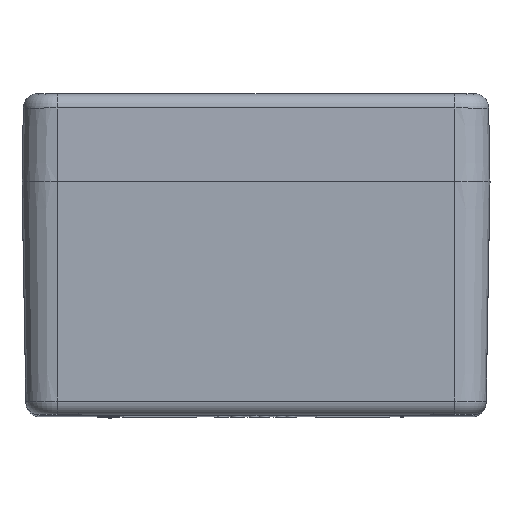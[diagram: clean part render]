
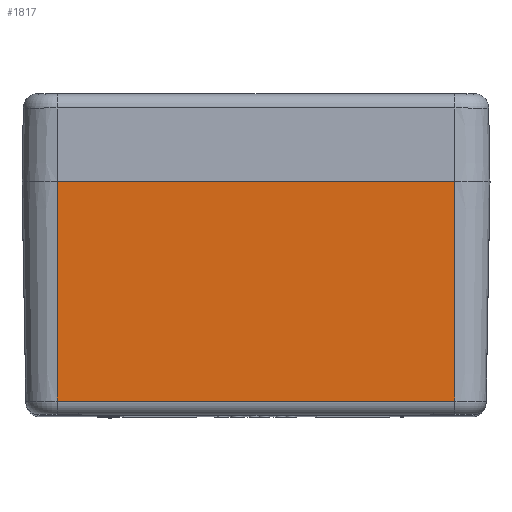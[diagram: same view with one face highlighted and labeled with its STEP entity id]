
A CAD part, top view. The second image highlights one B-rep face of the part: STEP entity #1817.
In plain terms, the highlighted planar face has unit normal (0, -0.018, 1).
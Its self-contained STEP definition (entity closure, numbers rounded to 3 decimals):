
#1626 = LINE ( 'NONE', #2700, #14240 ) ;
#1718 = DIRECTION ( 'NONE',  ( 1., 0., 0. ) ) ;
#1817 = ADVANCED_FACE ( 'NONE', ( #11391 ), #14605, .T. ) ;
#2449 = LINE ( 'NONE', #10705, #25382 ) ;
#2700 = CARTESIAN_POINT ( 'NONE',  ( 34., 0., 80. ) ) ;
#3035 = AXIS2_PLACEMENT_3D ( 'NONE', #19038, #25634, #12480 ) ;
#3054 = VERTEX_POINT ( 'NONE', #20802 ) ;
#3426 = VERTEX_POINT ( 'NONE', #24304 ) ;
#3944 = ORIENTED_EDGE ( 'NONE', *, *, #6080, .F. ) ;
#5054 = DIRECTION ( 'NONE',  ( 0., 1., 0.017 ) ) ;
#5085 = LINE ( 'NONE', #21016, #28003 ) ;
#6080 = EDGE_CURVE ( 'NONE', #3054, #20890, #5085, .T. ) ;
#7044 = VECTOR ( 'NONE', #8666, 1000. ) ;
#8666 = DIRECTION ( 'NONE',  ( 0., 1., 0.017 ) ) ;
#10705 = CARTESIAN_POINT ( 'NONE',  ( 34., -37.544, 79.345 ) ) ;
#10766 = ORIENTED_EDGE ( 'NONE', *, *, #16662, .T. ) ;
#11391 = FACE_OUTER_BOUND ( 'NONE', #18000, .T. ) ;
#12164 = DIRECTION ( 'NONE',  ( 1., 0., 0. ) ) ;
#12480 = DIRECTION ( 'NONE',  ( 0., -1., -0.017 ) ) ;
#13414 = ORIENTED_EDGE ( 'NONE', *, *, #20429, .T. ) ;
#14240 = VECTOR ( 'NONE', #5054, 1000. ) ;
#14605 = PLANE ( 'NONE',  #3035 ) ;
#15040 = CARTESIAN_POINT ( 'NONE',  ( 34., -37.544, 79.345 ) ) ;
#16643 = ORIENTED_EDGE ( 'NONE', *, *, #20462, .F. ) ;
#16662 = EDGE_CURVE ( 'NONE', #19337, #20890, #1626, .T. ) ;
#18000 = EDGE_LOOP ( 'NONE', ( #16643, #13414, #10766, #3944 ) ) ;
#19038 = CARTESIAN_POINT ( 'NONE',  ( -34., 0., 80. ) ) ;
#19337 = VERTEX_POINT ( 'NONE', #15040 ) ;
#20429 = EDGE_CURVE ( 'NONE', #3426, #19337, #2449, .T. ) ;
#20462 = EDGE_CURVE ( 'NONE', #3426, #3054, #24670, .T. ) ;
#20802 = CARTESIAN_POINT ( 'NONE',  ( -34., 0., 80. ) ) ;
#20890 = VERTEX_POINT ( 'NONE', #22437 ) ;
#21016 = CARTESIAN_POINT ( 'NONE',  ( -34., 0., 80. ) ) ;
#22437 = CARTESIAN_POINT ( 'NONE',  ( 34., 0., 80. ) ) ;
#24304 = CARTESIAN_POINT ( 'NONE',  ( -34., -37.544, 79.345 ) ) ;
#24670 = LINE ( 'NONE', #26287, #7044 ) ;
#25382 = VECTOR ( 'NONE', #1718, 1000. ) ;
#25634 = DIRECTION ( 'NONE',  ( 0., -0.017, 1. ) ) ;
#26287 = CARTESIAN_POINT ( 'NONE',  ( -34., 0., 80. ) ) ;
#28003 = VECTOR ( 'NONE', #12164, 1000. ) ;
